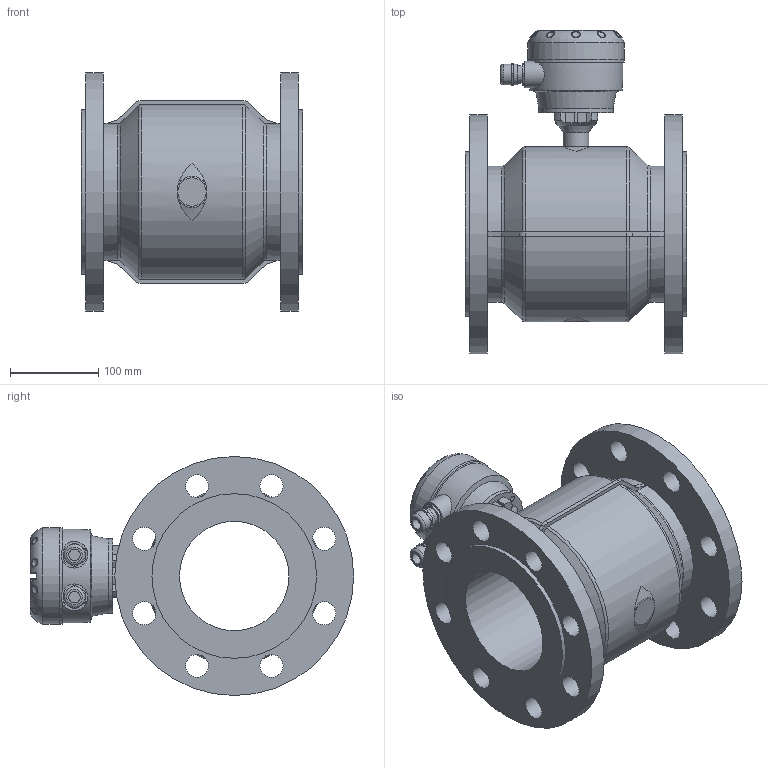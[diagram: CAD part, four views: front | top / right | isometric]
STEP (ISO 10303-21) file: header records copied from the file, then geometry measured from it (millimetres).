
FILE_DESCRIPTION (( 'STEP AP203' ), '1' );
FILE_NAME ('KROHNE_OPTIFLUX_2-4000W_DIN2635_DN125_PN40.STEP', '2011-04-26T11:26:18', ( '' ), ( '' ), 'SwSTEP 2.0', 'SolidWorks 2010', '' );
FILE_SCHEMA (( 'CONFIG_CONTROL_DESIGN' ));
Length unit declared in the file: millimetre
Products named in the file (1): KROHNE_OPTIFLUX_2-4000W_DIN2635_DN125_PN40
Bounding box: 250 x 365.49 x 270 mm (x, y, z)
Volume: 5611934.6 mm3; surface area: 545724.9 mm2
Topology: 14 solids, 14 shells, 391 faces, 976 edges, 634 vertices
Faces by surface type: plane 179, cylinder 102, bspline 53, torus 30, cone 14, sphere 13
Full cylindrical faces by diameter (mm): 4 x4, 6.6 x8, 13 x2, 20 x2, 23.5 x4, 26 x16, 29 x1, 30 x2, 84 x2, 109 x1, 123.7 x1, 153.8 x2, 186 x2, 270 x2
Entity records: 15828 total; most frequent: CARTESIAN_POINT 7089, ORIENTED_EDGE 1746, DIRECTION 1657, EDGE_CURVE 873, AXIS2_PLACEMENT_3D 615, VERTEX_POINT 607, EDGE_LOOP 548, FACE_OUTER_BOUND 457
